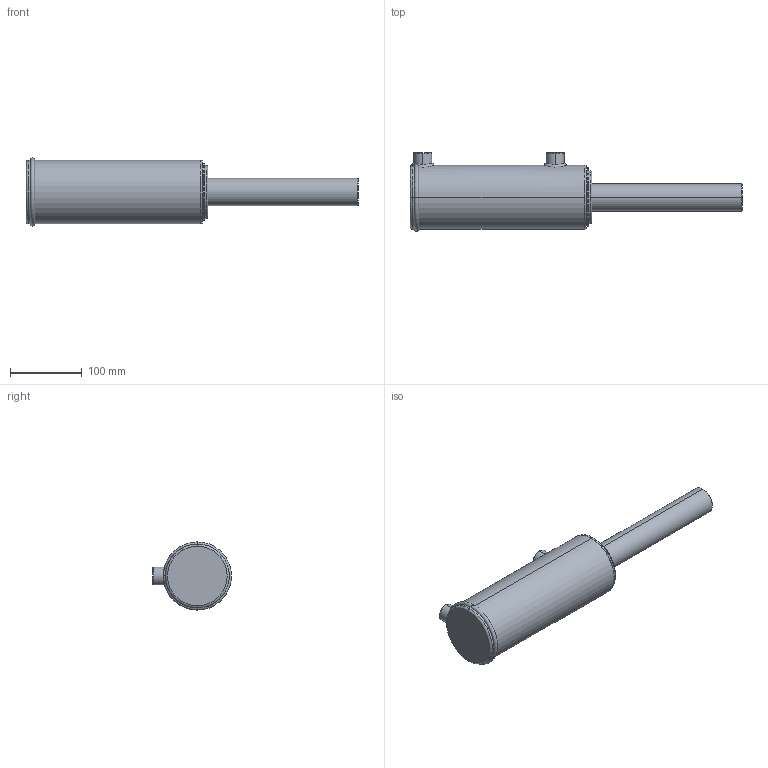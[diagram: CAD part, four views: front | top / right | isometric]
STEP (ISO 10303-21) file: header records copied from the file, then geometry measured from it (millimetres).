
FILE_DESCRIPTION (( 'STEP AP203' ), '1' );
FILE_NAME ('BL300150x152 (6) extended.STEP', '2014-11-23T22:32:31', ( '' ), ( '' ), 'SwSTEP 2.0', 'SolidWorks 2014', '' );
FILE_SCHEMA (( 'CONFIG_CONTROL_DESIGN' ));
Length unit declared in the file: millimetre
Products named in the file (3): BL300150x152 (6) extended; BL body 3_3x6; Spare_3x6
Assembly tree (2 placements, depth 2):
  BL300150x152 (6) extended
    BL body 3_3x6
    Spare_3x6
Bounding box: 462 x 109.9 x 94.9 mm (x, y, z)
Volume: 1631784.5 mm3; surface area: 157172.5 mm2
Topology: 2 solids, 2 shells, 88 faces, 205 edges, 126 vertices
Faces by surface type: cylinder 32, plane 20, torus 17, bspline 11, cone 8
Entity records: 5992 total; most frequent: CARTESIAN_POINT 3745, DIRECTION 420, ORIENTED_EDGE 402, EDGE_CURVE 201, AXIS2_PLACEMENT_3D 181, VERTEX_POINT 126, EDGE_LOOP 101, CIRCLE 99
